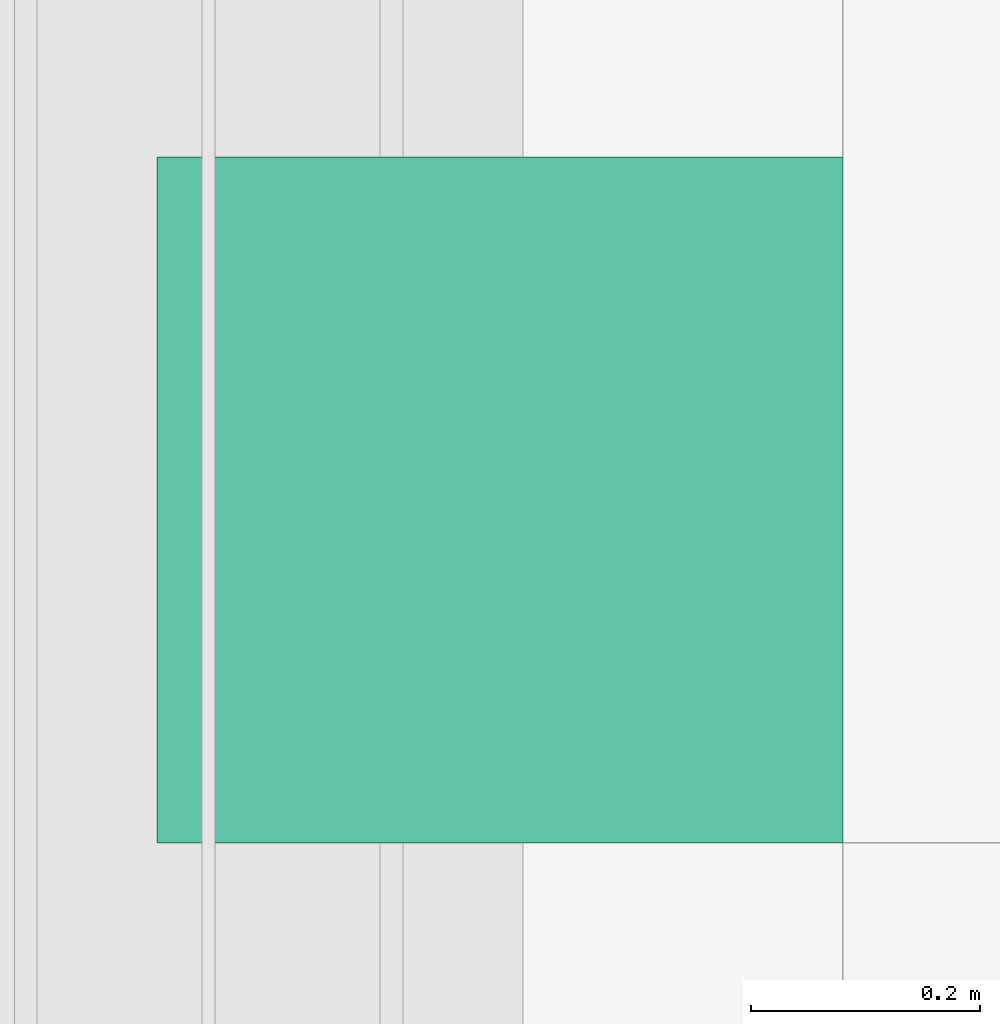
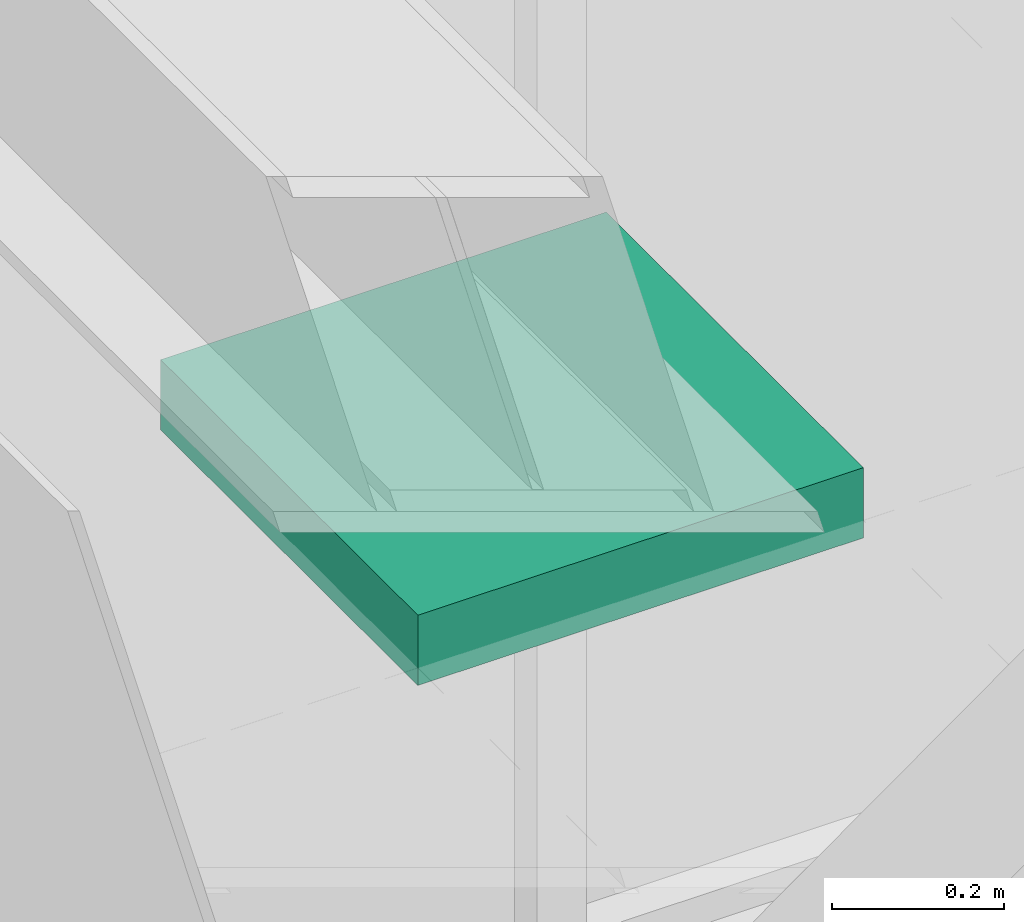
# One storey, part 289 of 347: 1 flow terminal.
"""IFC2X3 building model written with IfcOpenShell, lengths in millimetres."""

from ifc_helpers import new_model, entity, si_unit, converted_unit, derived_unit, money_unit, direction, frame, origin_with_axes, place, context, subcontext, project, spatial, open_shell, faceted_brep, surface_model, source, transform, mapped, type_object, type_shapes, element, save


model = new_model("IFC2X3")

# Units and contexts
model_context = context("Model", 3, precision=0.01, world=origin_with_axes(), true_north=direction((0.0, 1.0)))
plan_context = context("Plan", 3, precision=0.01, world=origin_with_axes(), true_north=direction((0.0, 1.0)))
body_context = subcontext(model_context, "Body", "Model", "MODEL_VIEW")
ifc_project = project(units=[si_unit("LENGTHUNIT", "METRE", prefix="MILLI"), si_unit("AREAUNIT", "SQUARE_METRE"), si_unit("VOLUMEUNIT", "CUBIC_METRE"), converted_unit("PLANEANGLEUNIT", "DEGREE", entity("IfcPlaneAngleMeasure", 0.0174532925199), si_unit("PLANEANGLEUNIT", "RADIAN"), dimensions=[0, 0, 0, 0, 0, 0, 0]), money_unit("EUR"), converted_unit("TIMEUNIT", "Year", entity("IfcTimeMeasure", 31556926.0), si_unit("TIMEUNIT", "SECOND"), dimensions=[0, 0, 1, 0, 0, 0, 0]), si_unit("MASSUNIT", "GRAM", prefix="KILO"), si_unit("THERMODYNAMICTEMPERATUREUNIT", "DEGREE_CELSIUS"), si_unit("LUMINOUSINTENSITYUNIT", "LUMEN"), si_unit("ENERGYUNIT", "JOULE", prefix="MEGA"), derived_unit("THERMALCONDUCTANCEUNIT", [(si_unit("POWERUNIT", "WATT"), 1), (si_unit("LENGTHUNIT", "METRE"), -1), (si_unit("THERMODYNAMICTEMPERATUREUNIT", "KELVIN"), -1)]), derived_unit("SPECIFICHEATCAPACITYUNIT", [(si_unit("ENERGYUNIT", "JOULE"), 1), (si_unit("MASSUNIT", "GRAM", prefix="KILO"), -1), (si_unit("THERMODYNAMICTEMPERATUREUNIT", "KELVIN"), -1)]), derived_unit("MASSDENSITYUNIT", [(si_unit("MASSUNIT", "GRAM", prefix="KILO"), 1), (si_unit("VOLUMEUNIT", "CUBIC_METRE"), -1)])], contexts=[model_context, plan_context])

# Site, building, storey
site_placement = place(None, origin_with_axes())
site = spatial("IfcSite", under=ifc_project, at=site_placement, Name="Site", CompositionType="ELEMENT")
building_placement = place(site_placement, origin_with_axes())
building = spatial("IfcBuilding", under=site, at=building_placement, Name="Naam gebouw", CompositionType="ELEMENT")
storey_placement = place(building_placement, origin_with_axes())
storey = spatial("IfcBuildingStorey", under=building, at=storey_placement, Name="begane grond", CompositionType="ELEMENT", Elevation=0.0)

# Flow terminal
lamp_type = type_object("IfcLampType", Name="TL plafond 25", PredefinedType="NOTDEFINED")
shared_shape = source(origin_with_axes(), body_context, "Body", "SurfaceModel", [
    faceted_brep([(0.0, 0.0, -100.0), (0.0, 0.0, 0.0), (-600.0, 0.0, 0.0), (-600.0, 0.0, -100.0), (0.0, 600.0, -100.0), (0.0, 600.0, 0.0), (-600.0, 600.0, 0.0), (-40.0, 40.0, 0.0), (-560.0, 40.0, 0.0), (-560.0, 560.0, 0.0), (-40.0, 560.0, 0.0), (-600.0, 600.0, -100.0), (-40.0, 40.0, -100.0), (-40.0, 560.0, -100.0), (-560.0, 560.0, -100.0), (-560.0, 40.0, -100.0)], [[[0, 1, 2, 3]], [[4, 5, 1, 0]], [[1, 5, 6, 2], [7, 8, 9, 10]], [[3, 2, 6, 11]], [[0, 3, 11, 4], [12, 13, 14, 15]], [[11, 6, 5, 4]], [[15, 8, 7, 12]], [[14, 9, 8, 15]], [[13, 10, 9, 14]], [[12, 7, 10, 13]]]),
    faceted_brep([(-40.0, 40.0, -16.3333333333), (-40.0, 40.0, 0.0), (-560.0, 40.0, 0.0), (-560.0, 40.0, -16.3333333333), (-40.0, 560.0, -16.3333333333), (-40.0, 560.0, 0.0), (-560.0, 560.0, 0.0), (-560.0, 560.0, -16.3333333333)], [[[0, 1, 2, 3]], [[4, 5, 1, 0]], [[1, 5, 6, 2]], [[3, 2, 6, 7]], [[0, 3, 7, 4]], [[7, 6, 5, 4]]]),
    surface_model("IfcShellBasedSurfaceModel", [(-559.0, 41.0, -100.0), (-559.0, 559.0, -100.0), (-40.0, 559.0, -100.0), (-40.0, 41.0, -100.0)], [open_shell([[[0, 1, 2, 3]]])]),
    faceted_brep([(-40.0, 40.0, -100.0), (-40.0, 40.0, -60.0), (-560.0, 40.0, -60.0), (-560.0, 40.0, -100.0), (-40.0, 560.0, -100.0), (-40.0, 560.0, -60.0), (-560.0, 560.0, -60.0), (-41.0, 41.0, -60.0), (-559.0, 41.0, -60.0), (-559.0, 559.0, -60.0), (-41.0, 559.0, -60.0), (-560.0, 560.0, -100.0), (-41.0, 41.0, -100.0), (-41.0, 559.0, -100.0), (-559.0, 559.0, -100.0), (-559.0, 41.0, -100.0)], [[[0, 1, 2, 3]], [[4, 5, 1, 0]], [[1, 5, 6, 2], [7, 8, 9, 10]], [[3, 2, 6, 11]], [[0, 3, 11, 4], [12, 13, 14, 15]], [[11, 6, 5, 4]], [[15, 8, 7, 12]], [[14, 9, 8, 15]], [[13, 10, 9, 14]], [[12, 7, 10, 13]]]),
    faceted_brep([(-40.0, 144.0, -48.3333333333), (-560.0, 144.0, -48.3333333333), (-560.0, 149.740251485, -47.191526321), (-40.0, 149.740251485, -47.191526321), (-40.0, 138.259748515, -47.191526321), (-560.0, 138.259748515, -47.191526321), (-560.0, 133.393398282, -43.9399350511), (-560.0, 130.141807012, -39.0735848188), (-560.0, 129.0, -33.3333333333), (-560.0, 130.141807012, -27.5930818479), (-560.0, 133.393398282, -22.7267316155), (-560.0, 138.259748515, -19.4751403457), (-560.0, 144.0, -18.3333333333), (-560.0, 149.740251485, -19.4751403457), (-560.0, 154.606601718, -22.7267316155), (-560.0, 157.858192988, -27.5930818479), (-560.0, 159.0, -33.3333333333), (-560.0, 157.858192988, -39.0735848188), (-560.0, 154.606601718, -43.9399350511), (-560.0, 144.0, -46.3333333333), (-560.0, 148.974884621, -45.343767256), (-560.0, 153.192388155, -42.5257214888), (-560.0, 156.010433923, -38.3082179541), (-560.0, 157.0, -33.3333333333), (-560.0, 156.010433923, -28.3584487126), (-560.0, 153.192388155, -24.1409451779), (-560.0, 148.974884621, -21.3228994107), (-560.0, 144.0, -20.3333333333), (-560.0, 139.025115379, -21.3228994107), (-560.0, 134.807611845, -24.1409451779), (-560.0, 131.989566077, -28.3584487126), (-560.0, 131.0, -33.3333333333), (-560.0, 131.989566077, -38.3082179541), (-560.0, 134.807611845, -42.5257214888), (-560.0, 139.025115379, -45.343767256), (-40.0, 154.606601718, -43.9399350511), (-40.0, 157.858192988, -39.0735848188), (-40.0, 159.0, -33.3333333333), (-40.0, 157.858192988, -27.5930818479), (-40.0, 154.606601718, -22.7267316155), (-40.0, 149.740251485, -19.4751403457), (-40.0, 144.0, -18.3333333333), (-40.0, 138.259748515, -19.4751403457), (-40.0, 133.393398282, -22.7267316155), (-40.0, 130.141807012, -27.5930818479), (-40.0, 129.0, -33.3333333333), (-40.0, 130.141807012, -39.0735848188), (-40.0, 133.393398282, -43.9399350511), (-40.0, 144.0, -46.3333333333), (-40.0, 139.025115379, -45.343767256), (-40.0, 134.807611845, -42.5257214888), (-40.0, 131.989566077, -38.3082179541), (-40.0, 131.0, -33.3333333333), (-40.0, 131.989566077, -28.3584487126), (-40.0, 134.807611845, -24.1409451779), (-40.0, 139.025115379, -21.3228994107), (-40.0, 144.0, -20.3333333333), (-40.0, 148.974884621, -21.3228994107), (-40.0, 153.192388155, -24.1409451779), (-40.0, 156.010433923, -28.3584487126), (-40.0, 157.0, -33.3333333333), (-40.0, 156.010433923, -38.3082179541), (-40.0, 153.192388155, -42.5257214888), (-40.0, 148.974884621, -45.343767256)], [[[0, 1, 2, 3]], [[4, 5, 1, 0]], [[1, 5, 6, 7, 8, 9, 10, 11, 12, 13, 14, 15, 16, 17, 18, 2], [19, 20, 21, 22, 23, 24, 25, 26, 27, 28, 29, 30, 31, 32, 33, 34]], [[3, 2, 18, 35]], [[0, 3, 35, 36, 37, 38, 39, 40, 41, 42, 43, 44, 45, 46, 47, 4], [48, 49, 50, 51, 52, 53, 54, 55, 56, 57, 58, 59, 60, 61, 62, 63]], [[47, 6, 5, 4]], [[46, 7, 6, 47]], [[45, 8, 7, 46]], [[44, 9, 8, 45]], [[43, 10, 9, 44]], [[42, 11, 10, 43]], [[41, 12, 11, 42]], [[40, 13, 12, 41]], [[39, 14, 13, 40]], [[38, 15, 14, 39]], [[37, 16, 15, 38]], [[36, 17, 16, 37]], [[35, 18, 17, 36]], [[63, 20, 19, 48]], [[62, 21, 20, 63]], [[61, 22, 21, 62]], [[60, 23, 22, 61]], [[59, 24, 23, 60]], [[58, 25, 24, 59]], [[57, 26, 25, 58]], [[56, 27, 26, 57]], [[55, 28, 27, 56]], [[54, 29, 28, 55]], [[53, 30, 29, 54]], [[52, 31, 30, 53]], [[51, 32, 31, 52]], [[50, 33, 32, 51]], [[49, 34, 33, 50]], [[48, 19, 34, 49]]]),
    faceted_brep([(-40.0, 248.0, -48.3333333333), (-560.0, 248.0, -48.3333333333), (-560.0, 253.740251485, -47.191526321), (-40.0, 253.740251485, -47.191526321), (-40.0, 242.259748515, -47.191526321), (-560.0, 242.259748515, -47.191526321), (-560.0, 237.393398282, -43.9399350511), (-560.0, 234.141807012, -39.0735848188), (-560.0, 233.0, -33.3333333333), (-560.0, 234.141807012, -27.5930818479), (-560.0, 237.393398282, -22.7267316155), (-560.0, 242.259748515, -19.4751403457), (-560.0, 248.0, -18.3333333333), (-560.0, 253.740251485, -19.4751403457), (-560.0, 258.606601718, -22.7267316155), (-560.0, 261.858192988, -27.5930818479), (-560.0, 263.0, -33.3333333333), (-560.0, 261.858192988, -39.0735848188), (-560.0, 258.606601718, -43.9399350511), (-560.0, 248.0, -46.3333333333), (-560.0, 252.974884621, -45.343767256), (-560.0, 257.192388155, -42.5257214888), (-560.0, 260.010433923, -38.3082179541), (-560.0, 261.0, -33.3333333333), (-560.0, 260.010433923, -28.3584487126), (-560.0, 257.192388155, -24.1409451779), (-560.0, 252.974884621, -21.3228994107), (-560.0, 248.0, -20.3333333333), (-560.0, 243.025115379, -21.3228994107), (-560.0, 238.807611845, -24.1409451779), (-560.0, 235.989566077, -28.3584487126), (-560.0, 235.0, -33.3333333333), (-560.0, 235.989566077, -38.3082179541), (-560.0, 238.807611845, -42.5257214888), (-560.0, 243.025115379, -45.343767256), (-40.0, 258.606601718, -43.9399350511), (-40.0, 261.858192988, -39.0735848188), (-40.0, 263.0, -33.3333333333), (-40.0, 261.858192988, -27.5930818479), (-40.0, 258.606601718, -22.7267316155), (-40.0, 253.740251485, -19.4751403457), (-40.0, 248.0, -18.3333333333), (-40.0, 242.259748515, -19.4751403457), (-40.0, 237.393398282, -22.7267316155), (-40.0, 234.141807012, -27.5930818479), (-40.0, 233.0, -33.3333333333), (-40.0, 234.141807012, -39.0735848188), (-40.0, 237.393398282, -43.9399350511), (-40.0, 248.0, -46.3333333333), (-40.0, 243.025115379, -45.343767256), (-40.0, 238.807611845, -42.5257214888), (-40.0, 235.989566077, -38.3082179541), (-40.0, 235.0, -33.3333333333), (-40.0, 235.989566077, -28.3584487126), (-40.0, 238.807611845, -24.1409451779), (-40.0, 243.025115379, -21.3228994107), (-40.0, 248.0, -20.3333333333), (-40.0, 252.974884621, -21.3228994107), (-40.0, 257.192388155, -24.1409451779), (-40.0, 260.010433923, -28.3584487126), (-40.0, 261.0, -33.3333333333), (-40.0, 260.010433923, -38.3082179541), (-40.0, 257.192388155, -42.5257214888), (-40.0, 252.974884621, -45.343767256)], [[[0, 1, 2, 3]], [[4, 5, 1, 0]], [[1, 5, 6, 7, 8, 9, 10, 11, 12, 13, 14, 15, 16, 17, 18, 2], [19, 20, 21, 22, 23, 24, 25, 26, 27, 28, 29, 30, 31, 32, 33, 34]], [[3, 2, 18, 35]], [[0, 3, 35, 36, 37, 38, 39, 40, 41, 42, 43, 44, 45, 46, 47, 4], [48, 49, 50, 51, 52, 53, 54, 55, 56, 57, 58, 59, 60, 61, 62, 63]], [[47, 6, 5, 4]], [[46, 7, 6, 47]], [[45, 8, 7, 46]], [[44, 9, 8, 45]], [[43, 10, 9, 44]], [[42, 11, 10, 43]], [[41, 12, 11, 42]], [[40, 13, 12, 41]], [[39, 14, 13, 40]], [[38, 15, 14, 39]], [[37, 16, 15, 38]], [[36, 17, 16, 37]], [[35, 18, 17, 36]], [[63, 20, 19, 48]], [[62, 21, 20, 63]], [[61, 22, 21, 62]], [[60, 23, 22, 61]], [[59, 24, 23, 60]], [[58, 25, 24, 59]], [[57, 26, 25, 58]], [[56, 27, 26, 57]], [[55, 28, 27, 56]], [[54, 29, 28, 55]], [[53, 30, 29, 54]], [[52, 31, 30, 53]], [[51, 32, 31, 52]], [[50, 33, 32, 51]], [[49, 34, 33, 50]], [[48, 19, 34, 49]]]),
    faceted_brep([(-40.0, 352.0, -48.3333333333), (-560.0, 352.0, -48.3333333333), (-560.0, 357.740251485, -47.191526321), (-40.0, 357.740251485, -47.191526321), (-40.0, 346.259748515, -47.191526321), (-560.0, 346.259748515, -47.191526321), (-560.0, 341.393398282, -43.9399350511), (-560.0, 338.141807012, -39.0735848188), (-560.0, 337.0, -33.3333333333), (-560.0, 338.141807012, -27.5930818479), (-560.0, 341.393398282, -22.7267316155), (-560.0, 346.259748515, -19.4751403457), (-560.0, 352.0, -18.3333333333), (-560.0, 357.740251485, -19.4751403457), (-560.0, 362.606601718, -22.7267316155), (-560.0, 365.858192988, -27.5930818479), (-560.0, 367.0, -33.3333333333), (-560.0, 365.858192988, -39.0735848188), (-560.0, 362.606601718, -43.9399350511), (-560.0, 352.0, -46.3333333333), (-560.0, 356.974884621, -45.343767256), (-560.0, 361.192388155, -42.5257214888), (-560.0, 364.010433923, -38.3082179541), (-560.0, 365.0, -33.3333333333), (-560.0, 364.010433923, -28.3584487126), (-560.0, 361.192388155, -24.1409451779), (-560.0, 356.974884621, -21.3228994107), (-560.0, 352.0, -20.3333333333), (-560.0, 347.025115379, -21.3228994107), (-560.0, 342.807611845, -24.1409451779), (-560.0, 339.989566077, -28.3584487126), (-560.0, 339.0, -33.3333333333), (-560.0, 339.989566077, -38.3082179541), (-560.0, 342.807611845, -42.5257214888), (-560.0, 347.025115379, -45.343767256), (-40.0, 362.606601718, -43.9399350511), (-40.0, 365.858192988, -39.0735848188), (-40.0, 367.0, -33.3333333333), (-40.0, 365.858192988, -27.5930818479), (-40.0, 362.606601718, -22.7267316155), (-40.0, 357.740251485, -19.4751403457), (-40.0, 352.0, -18.3333333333), (-40.0, 346.259748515, -19.4751403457), (-40.0, 341.393398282, -22.7267316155), (-40.0, 338.141807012, -27.5930818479), (-40.0, 337.0, -33.3333333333), (-40.0, 338.141807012, -39.0735848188), (-40.0, 341.393398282, -43.9399350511), (-40.0, 352.0, -46.3333333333), (-40.0, 347.025115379, -45.343767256), (-40.0, 342.807611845, -42.5257214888), (-40.0, 339.989566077, -38.3082179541), (-40.0, 339.0, -33.3333333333), (-40.0, 339.989566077, -28.3584487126), (-40.0, 342.807611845, -24.1409451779), (-40.0, 347.025115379, -21.3228994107), (-40.0, 352.0, -20.3333333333), (-40.0, 356.974884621, -21.3228994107), (-40.0, 361.192388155, -24.1409451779), (-40.0, 364.010433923, -28.3584487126), (-40.0, 365.0, -33.3333333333), (-40.0, 364.010433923, -38.3082179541), (-40.0, 361.192388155, -42.5257214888), (-40.0, 356.974884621, -45.343767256)], [[[0, 1, 2, 3]], [[4, 5, 1, 0]], [[1, 5, 6, 7, 8, 9, 10, 11, 12, 13, 14, 15, 16, 17, 18, 2], [19, 20, 21, 22, 23, 24, 25, 26, 27, 28, 29, 30, 31, 32, 33, 34]], [[3, 2, 18, 35]], [[0, 3, 35, 36, 37, 38, 39, 40, 41, 42, 43, 44, 45, 46, 47, 4], [48, 49, 50, 51, 52, 53, 54, 55, 56, 57, 58, 59, 60, 61, 62, 63]], [[47, 6, 5, 4]], [[46, 7, 6, 47]], [[45, 8, 7, 46]], [[44, 9, 8, 45]], [[43, 10, 9, 44]], [[42, 11, 10, 43]], [[41, 12, 11, 42]], [[40, 13, 12, 41]], [[39, 14, 13, 40]], [[38, 15, 14, 39]], [[37, 16, 15, 38]], [[36, 17, 16, 37]], [[35, 18, 17, 36]], [[63, 20, 19, 48]], [[62, 21, 20, 63]], [[61, 22, 21, 62]], [[60, 23, 22, 61]], [[59, 24, 23, 60]], [[58, 25, 24, 59]], [[57, 26, 25, 58]], [[56, 27, 26, 57]], [[55, 28, 27, 56]], [[54, 29, 28, 55]], [[53, 30, 29, 54]], [[52, 31, 30, 53]], [[51, 32, 31, 52]], [[50, 33, 32, 51]], [[49, 34, 33, 50]], [[48, 19, 34, 49]]]),
    faceted_brep([(-40.0, 456.0, -48.3333333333), (-560.0, 456.0, -48.3333333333), (-560.0, 461.740251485, -47.191526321), (-40.0, 461.740251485, -47.191526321), (-40.0, 450.259748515, -47.191526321), (-560.0, 450.259748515, -47.191526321), (-560.0, 445.393398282, -43.9399350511), (-560.0, 442.141807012, -39.0735848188), (-560.0, 441.0, -33.3333333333), (-560.0, 442.141807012, -27.5930818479), (-560.0, 445.393398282, -22.7267316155), (-560.0, 450.259748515, -19.4751403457), (-560.0, 456.0, -18.3333333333), (-560.0, 461.740251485, -19.4751403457), (-560.0, 466.606601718, -22.7267316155), (-560.0, 469.858192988, -27.5930818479), (-560.0, 471.0, -33.3333333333), (-560.0, 469.858192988, -39.0735848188), (-560.0, 466.606601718, -43.9399350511), (-560.0, 456.0, -46.3333333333), (-560.0, 460.974884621, -45.343767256), (-560.0, 465.192388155, -42.5257214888), (-560.0, 468.010433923, -38.3082179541), (-560.0, 469.0, -33.3333333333), (-560.0, 468.010433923, -28.3584487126), (-560.0, 465.192388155, -24.1409451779), (-560.0, 460.974884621, -21.3228994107), (-560.0, 456.0, -20.3333333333), (-560.0, 451.025115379, -21.3228994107), (-560.0, 446.807611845, -24.1409451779), (-560.0, 443.989566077, -28.3584487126), (-560.0, 443.0, -33.3333333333), (-560.0, 443.989566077, -38.3082179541), (-560.0, 446.807611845, -42.5257214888), (-560.0, 451.025115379, -45.343767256), (-40.0, 466.606601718, -43.9399350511), (-40.0, 469.858192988, -39.0735848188), (-40.0, 471.0, -33.3333333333), (-40.0, 469.858192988, -27.5930818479), (-40.0, 466.606601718, -22.7267316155), (-40.0, 461.740251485, -19.4751403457), (-40.0, 456.0, -18.3333333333), (-40.0, 450.259748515, -19.4751403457), (-40.0, 445.393398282, -22.7267316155), (-40.0, 442.141807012, -27.5930818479), (-40.0, 441.0, -33.3333333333), (-40.0, 442.141807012, -39.0735848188), (-40.0, 445.393398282, -43.9399350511), (-40.0, 456.0, -46.3333333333), (-40.0, 451.025115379, -45.343767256), (-40.0, 446.807611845, -42.5257214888), (-40.0, 443.989566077, -38.3082179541), (-40.0, 443.0, -33.3333333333), (-40.0, 443.989566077, -28.3584487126), (-40.0, 446.807611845, -24.1409451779), (-40.0, 451.025115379, -21.3228994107), (-40.0, 456.0, -20.3333333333), (-40.0, 460.974884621, -21.3228994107), (-40.0, 465.192388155, -24.1409451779), (-40.0, 468.010433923, -28.3584487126), (-40.0, 469.0, -33.3333333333), (-40.0, 468.010433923, -38.3082179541), (-40.0, 465.192388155, -42.5257214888), (-40.0, 460.974884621, -45.343767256)], [[[0, 1, 2, 3]], [[4, 5, 1, 0]], [[1, 5, 6, 7, 8, 9, 10, 11, 12, 13, 14, 15, 16, 17, 18, 2], [19, 20, 21, 22, 23, 24, 25, 26, 27, 28, 29, 30, 31, 32, 33, 34]], [[3, 2, 18, 35]], [[0, 3, 35, 36, 37, 38, 39, 40, 41, 42, 43, 44, 45, 46, 47, 4], [48, 49, 50, 51, 52, 53, 54, 55, 56, 57, 58, 59, 60, 61, 62, 63]], [[47, 6, 5, 4]], [[46, 7, 6, 47]], [[45, 8, 7, 46]], [[44, 9, 8, 45]], [[43, 10, 9, 44]], [[42, 11, 10, 43]], [[41, 12, 11, 42]], [[40, 13, 12, 41]], [[39, 14, 13, 40]], [[38, 15, 14, 39]], [[37, 16, 15, 38]], [[36, 17, 16, 37]], [[35, 18, 17, 36]], [[63, 20, 19, 48]], [[62, 21, 20, 63]], [[61, 22, 21, 62]], [[60, 23, 22, 61]], [[59, 24, 23, 60]], [[58, 25, 24, 59]], [[57, 26, 25, 58]], [[56, 27, 26, 57]], [[55, 28, 27, 56]], [[54, 29, 28, 55]], [[53, 30, 29, 54]], [[52, 31, 30, 53]], [[51, 32, 31, 52]], [[50, 33, 32, 51]], [[49, 34, 33, 50]], [[48, 19, 34, 49]]]),
])
type_shapes(lamp_type, [shared_shape])
flow_terminal_placement = place(storey_placement, frame((45100.0, 41790.5, 3295.0), z_axis=(0.0, 0.0, 1.0), x_axis=(1.0, 0.0, 0.0)))
element("IfcFlowTerminal", 1, at=flow_terminal_placement, inside=storey, type_object=lamp_type, Name="63_Lamp-x", ObjectType="Lamp", context=body_context, shape_type="MappedRepresentation", body=[
    mapped(shared_shape, transform((0.0, 0.0, 0.0))),
])

save(model, "model.ifc")
